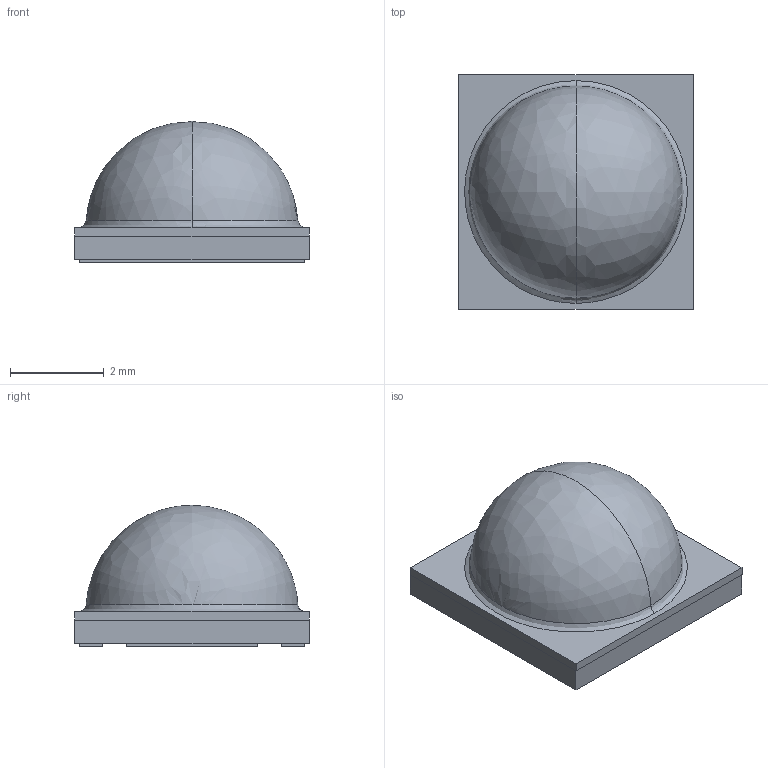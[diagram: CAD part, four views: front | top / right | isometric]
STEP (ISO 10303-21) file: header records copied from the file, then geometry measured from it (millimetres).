
FILE_DESCRIPTION(/* description */ (''),/* implementation_level */ '2;1');
FILE_NAME(/* name */ 'STEC193',/* time_stamp */ '2024-09-02T13:48:49+08:00',/* author */ (''),/* organization */ (''),/* preprocessor_version */ 'ST-DEVELOPER v16.5',/* originating_system */ '',/* authorisation */ '');
FILE_SCHEMA (('CONFIG_CONTROL_DESIGN'));
Length unit declared in the file: millimetre
Products named in the file (1): Document
Bounding box: 5 x 5 x 3.01 mm (x, y, z)
Volume: 44.9 mm3; surface area: 224.6 mm2
Topology: 12 solids, 12 shells, 183 faces, 415 edges, 259 vertices
Faces by surface type: plane 113, bspline 53, cylinder 17
Entity records: 8577 total; most frequent: CARTESIAN_POINT 5540, ORIENTED_EDGE 830, EDGE_CURVE 415, B_SPLINE_CURVE_WITH_KNOTS 285, VERTEX_POINT 259, EDGE_LOOP 192, ADVANCED_FACE 183, FACE_OUTER_BOUND 183
